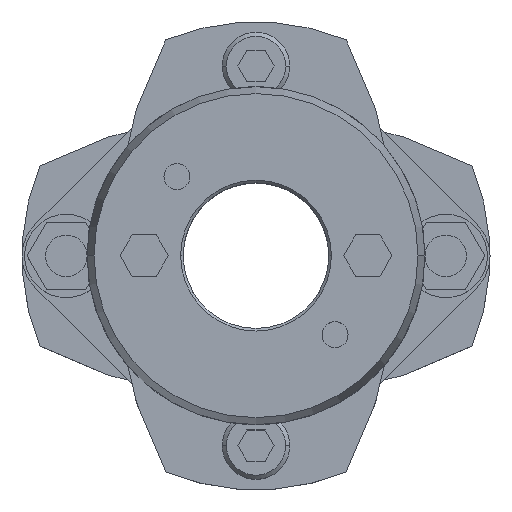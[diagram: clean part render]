
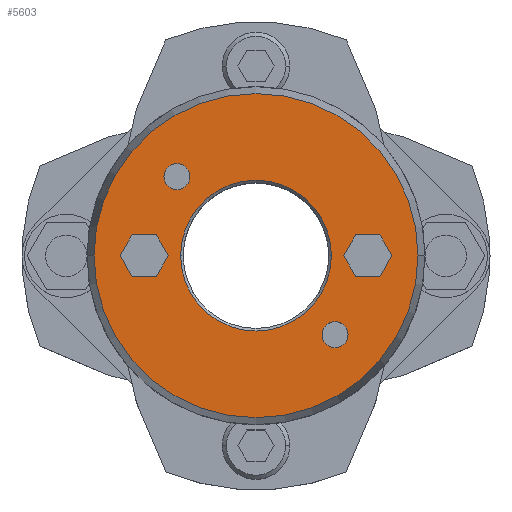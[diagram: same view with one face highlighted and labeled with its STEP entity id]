
A CAD part, top view. The second image highlights one B-rep face of the part: STEP entity #5603.
In plain terms, the highlighted planar face has unit normal (0, 0, 1).
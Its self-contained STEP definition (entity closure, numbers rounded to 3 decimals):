
#857=CARTESIAN_POINT('',(-14.5,0.,39.25));
#858=VERTEX_POINT('',#857);
#874=CARTESIAN_POINT('',(14.5,0.,39.25));
#875=VERTEX_POINT('',#874);
#882=CARTESIAN_POINT('',(0.,0.,39.25));
#883=DIRECTION('',(0.0,0.0,1.0));
#884=DIRECTION('',(-1.0,0.0,0.0));
#885=AXIS2_PLACEMENT_3D('',#882,#883,#884);
#886=CIRCLE('',#885,14.5);
#887=EDGE_CURVE('',#875,#858,#886,.T.);
#1003=CARTESIAN_POINT('',(31.16,0.,39.25));
#1004=VERTEX_POINT('',#1003);
#1013=CARTESIAN_POINT('',(-31.16,0.,39.25));
#1014=VERTEX_POINT('',#1013);
#1015=CARTESIAN_POINT('',(0.,0.,39.25));
#1016=DIRECTION('',(0.0,0.0,-1.0));
#1017=DIRECTION('',(1.0,0.0,0.0));
#1018=AXIS2_PLACEMENT_3D('',#1015,#1016,#1017);
#1019=CIRCLE('',#1018,31.16);
#1020=EDGE_CURVE('',#1004,#1014,#1019,.T.);
#1337=CARTESIAN_POINT('',(-17.703,15.203,39.25));
#1338=VERTEX_POINT('',#1337);
#1354=CARTESIAN_POINT('',(-12.703,15.203,39.25));
#1355=VERTEX_POINT('',#1354);
#1362=CARTESIAN_POINT('',(-15.203,15.203,39.25));
#1363=DIRECTION('',(0.0,0.0,-1.0));
#1364=DIRECTION('',(-1.0,0.0,0.0));
#1365=AXIS2_PLACEMENT_3D('',#1362,#1363,#1364);
#1366=CIRCLE('',#1365,2.5);
#1367=EDGE_CURVE('',#1338,#1355,#1366,.T.);
#1379=CARTESIAN_POINT('',(12.703,-15.203,39.25));
#1380=VERTEX_POINT('',#1379);
#1396=CARTESIAN_POINT('',(17.703,-15.203,39.25));
#1397=VERTEX_POINT('',#1396);
#1404=CARTESIAN_POINT('',(15.203,-15.203,39.25));
#1405=DIRECTION('',(0.0,0.0,-1.0));
#1406=DIRECTION('',(-1.0,0.0,0.0));
#1407=AXIS2_PLACEMENT_3D('',#1404,#1405,#1406);
#1408=CIRCLE('',#1407,2.5);
#1409=EDGE_CURVE('',#1380,#1397,#1408,.T.);
#4209=CARTESIAN_POINT('',(16.881,0.,39.25));
#4210=VERTEX_POINT('',#4209);
#4217=CARTESIAN_POINT('',(19.191,-4.,39.25));
#4218=VERTEX_POINT('',#4217);
#4219=CARTESIAN_POINT('',(19.191,-4.,39.25));
#4220=DIRECTION('',(-0.5,0.866,0.0));
#4221=VECTOR('',#4220,4.619);
#4222=LINE('',#4219,#4221);
#4223=EDGE_CURVE('',#4218,#4210,#4222,.T.);
#4247=CARTESIAN_POINT('',(19.191,4.,39.25));
#4248=VERTEX_POINT('',#4247);
#4255=CARTESIAN_POINT('',(16.881,0.,39.25));
#4256=DIRECTION('',(0.5,0.866,0.0));
#4257=VECTOR('',#4256,4.619);
#4258=LINE('',#4255,#4257);
#4259=EDGE_CURVE('',#4210,#4248,#4258,.T.);
#4278=CARTESIAN_POINT('',(23.809,4.,39.25));
#4279=VERTEX_POINT('',#4278);
#4286=CARTESIAN_POINT('',(19.191,4.,39.25));
#4287=DIRECTION('',(1.0,0.0,0.0));
#4288=VECTOR('',#4287,4.619);
#4289=LINE('',#4286,#4288);
#4290=EDGE_CURVE('',#4248,#4279,#4289,.T.);
#4309=CARTESIAN_POINT('',(26.119,0.,39.25));
#4310=VERTEX_POINT('',#4309);
#4317=CARTESIAN_POINT('',(23.809,4.,39.25));
#4318=DIRECTION('',(0.5,-0.866,0.0));
#4319=VECTOR('',#4318,4.619);
#4320=LINE('',#4317,#4319);
#4321=EDGE_CURVE('',#4279,#4310,#4320,.T.);
#4340=CARTESIAN_POINT('',(23.809,-4.,39.25));
#4341=VERTEX_POINT('',#4340);
#4348=CARTESIAN_POINT('',(26.119,0.,39.25));
#4349=DIRECTION('',(-0.5,-0.866,0.0));
#4350=VECTOR('',#4349,4.619);
#4351=LINE('',#4348,#4350);
#4352=EDGE_CURVE('',#4310,#4341,#4351,.T.);
#4370=CARTESIAN_POINT('',(23.809,-4.,39.25));
#4371=DIRECTION('',(-1.0,0.0,0.0));
#4372=VECTOR('',#4371,4.619);
#4373=LINE('',#4370,#4372);
#4374=EDGE_CURVE('',#4341,#4218,#4373,.T.);
#4409=CARTESIAN_POINT('',(-26.119,0.,39.25));
#4410=VERTEX_POINT('',#4409);
#4417=CARTESIAN_POINT('',(-23.809,-4.,39.25));
#4418=VERTEX_POINT('',#4417);
#4419=CARTESIAN_POINT('',(-23.809,-4.,39.25));
#4420=DIRECTION('',(-0.5,0.866,0.0));
#4421=VECTOR('',#4420,4.619);
#4422=LINE('',#4419,#4421);
#4423=EDGE_CURVE('',#4418,#4410,#4422,.T.);
#4447=CARTESIAN_POINT('',(-23.809,4.,39.25));
#4448=VERTEX_POINT('',#4447);
#4455=CARTESIAN_POINT('',(-26.119,0.,39.25));
#4456=DIRECTION('',(0.5,0.866,0.0));
#4457=VECTOR('',#4456,4.619);
#4458=LINE('',#4455,#4457);
#4459=EDGE_CURVE('',#4410,#4448,#4458,.T.);
#4478=CARTESIAN_POINT('',(-19.191,4.,39.25));
#4479=VERTEX_POINT('',#4478);
#4486=CARTESIAN_POINT('',(-23.809,4.,39.25));
#4487=DIRECTION('',(1.0,0.0,0.0));
#4488=VECTOR('',#4487,4.619);
#4489=LINE('',#4486,#4488);
#4490=EDGE_CURVE('',#4448,#4479,#4489,.T.);
#4509=CARTESIAN_POINT('',(-16.881,0.,39.25));
#4510=VERTEX_POINT('',#4509);
#4517=CARTESIAN_POINT('',(-19.191,4.,39.25));
#4518=DIRECTION('',(0.5,-0.866,0.0));
#4519=VECTOR('',#4518,4.619);
#4520=LINE('',#4517,#4519);
#4521=EDGE_CURVE('',#4479,#4510,#4520,.T.);
#4540=CARTESIAN_POINT('',(-19.191,-4.,39.25));
#4541=VERTEX_POINT('',#4540);
#4548=CARTESIAN_POINT('',(-16.881,0.,39.25));
#4549=DIRECTION('',(-0.5,-0.866,0.0));
#4550=VECTOR('',#4549,4.619);
#4551=LINE('',#4548,#4550);
#4552=EDGE_CURVE('',#4510,#4541,#4551,.T.);
#4570=CARTESIAN_POINT('',(-19.191,-4.,39.25));
#4571=DIRECTION('',(-1.0,0.0,0.0));
#4572=VECTOR('',#4571,4.619);
#4573=LINE('',#4570,#4572);
#4574=EDGE_CURVE('',#4541,#4418,#4573,.T.);
#4600=CARTESIAN_POINT('',(15.203,-15.203,39.25));
#4601=DIRECTION('',(0.0,0.0,-1.0));
#4602=DIRECTION('',(-1.0,0.0,0.0));
#4603=AXIS2_PLACEMENT_3D('',#4600,#4601,#4602);
#4604=CIRCLE('',#4603,2.5);
#4605=EDGE_CURVE('',#1397,#1380,#4604,.T.);
#4634=CARTESIAN_POINT('',(-15.203,15.203,39.25));
#4635=DIRECTION('',(0.0,0.0,-1.0));
#4636=DIRECTION('',(-1.0,0.0,0.0));
#4637=AXIS2_PLACEMENT_3D('',#4634,#4635,#4636);
#4638=CIRCLE('',#4637,2.5);
#4639=EDGE_CURVE('',#1355,#1338,#4638,.T.);
#5550=CARTESIAN_POINT('',(0.,0.,39.25));
#5551=DIRECTION('',(0.0,0.0,-1.0));
#5552=DIRECTION('',(1.0,0.0,0.0));
#5553=AXIS2_PLACEMENT_3D('',#5550,#5551,#5552);
#5554=CIRCLE('',#5553,31.16);
#5555=EDGE_CURVE('',#1014,#1004,#5554,.T.);
#5560=CARTESIAN_POINT('',(-2.682,0.,39.25));
#5561=DIRECTION('',(0.0,0.0,1.0));
#5562=DIRECTION('',(-1.0,0.0,0.0));
#5563=AXIS2_PLACEMENT_3D('',#5560,#5561,#5562);
#5564=PLANE('',#5563);
#5565=ORIENTED_EDGE('',*,*,#5555,.F.);
#5566=ORIENTED_EDGE('',*,*,#1020,.F.);
#5567=EDGE_LOOP('',(#5565,#5566));
#5568=FACE_OUTER_BOUND('',#5567,.T.);
#5569=ORIENTED_EDGE('',*,*,#4223,.T.);
#5570=ORIENTED_EDGE('',*,*,#4259,.T.);
#5571=ORIENTED_EDGE('',*,*,#4290,.T.);
#5572=ORIENTED_EDGE('',*,*,#4321,.T.);
#5573=ORIENTED_EDGE('',*,*,#4352,.T.);
#5574=ORIENTED_EDGE('',*,*,#4374,.T.);
#5575=EDGE_LOOP('',(#5569,#5570,#5571,#5572,#5573,#5574));
#5576=FACE_BOUND('',#5575,.T.);
#5577=ORIENTED_EDGE('',*,*,#4423,.T.);
#5578=ORIENTED_EDGE('',*,*,#4459,.T.);
#5579=ORIENTED_EDGE('',*,*,#4490,.T.);
#5580=ORIENTED_EDGE('',*,*,#4521,.T.);
#5581=ORIENTED_EDGE('',*,*,#4552,.T.);
#5582=ORIENTED_EDGE('',*,*,#4574,.T.);
#5583=EDGE_LOOP('',(#5577,#5578,#5579,#5580,#5581,#5582));
#5584=FACE_BOUND('',#5583,.T.);
#5585=ORIENTED_EDGE('',*,*,#1409,.T.);
#5586=ORIENTED_EDGE('',*,*,#4605,.T.);
#5587=EDGE_LOOP('',(#5585,#5586));
#5588=FACE_BOUND('',#5587,.T.);
#5589=ORIENTED_EDGE('',*,*,#1367,.T.);
#5590=ORIENTED_EDGE('',*,*,#4639,.T.);
#5591=EDGE_LOOP('',(#5589,#5590));
#5592=FACE_BOUND('',#5591,.T.);
#5593=ORIENTED_EDGE('',*,*,#887,.F.);
#5594=CARTESIAN_POINT('',(0.,0.,39.25));
#5595=DIRECTION('',(0.0,0.0,1.0));
#5596=DIRECTION('',(-1.0,0.0,0.0));
#5597=AXIS2_PLACEMENT_3D('',#5594,#5595,#5596);
#5598=CIRCLE('',#5597,14.5);
#5599=EDGE_CURVE('',#858,#875,#5598,.T.);
#5600=ORIENTED_EDGE('',*,*,#5599,.F.);
#5601=EDGE_LOOP('',(#5593,#5600));
#5602=FACE_BOUND('',#5601,.T.);
#5603=ADVANCED_FACE('',(#5568,#5576,#5584,#5588,#5592,#5602),#5564,.T.);
